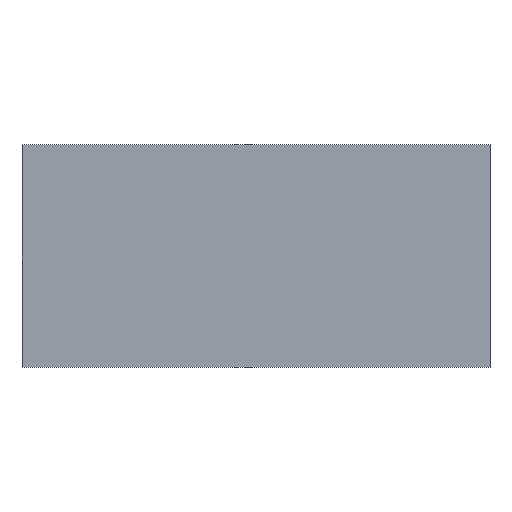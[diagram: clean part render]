
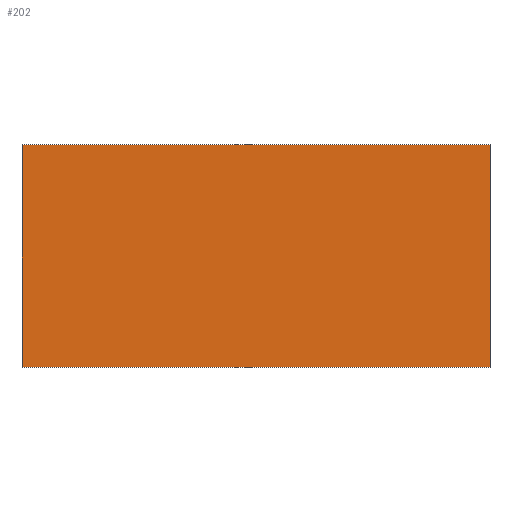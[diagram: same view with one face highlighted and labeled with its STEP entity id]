
A CAD part, top view. The second image highlights one B-rep face of the part: STEP entity #202.
In plain terms, the highlighted planar face has unit normal (0, 0, 1).
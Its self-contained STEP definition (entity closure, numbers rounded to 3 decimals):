
#9 = EDGE_CURVE ( 'NONE', #58, #63, #158, .T. ) ;
#12 = EDGE_CURVE ( 'NONE', #61, #60, #137, .T. ) ;
#13 = EDGE_CURVE ( 'NONE', #63, #61, #150, .T. ) ;
#17 = EDGE_CURVE ( 'NONE', #60, #58, #179, .T. ) ;
#18 = AXIS2_PLACEMENT_3D ( 'NONE', #39, #41, #46 ) ;
#39 = CARTESIAN_POINT ( 'NONE',  ( -451., 429., 6. ) ) ;
#41 = DIRECTION ( 'NONE',  ( 0., 0., -1. ) ) ;
#46 = DIRECTION ( 'NONE',  ( 0., 1., 0. ) ) ;
#52 = CARTESIAN_POINT ( 'NONE',  ( 451., 429., 6. ) ) ;
#58 = VERTEX_POINT ( 'NONE', #104 ) ;
#60 = VERTEX_POINT ( 'NONE', #96 ) ;
#61 = VERTEX_POINT ( 'NONE', #101 ) ;
#63 = VERTEX_POINT ( 'NONE', #52 ) ;
#69 = PLANE ( 'NONE',  #18 ) ;
#75 = DIRECTION ( 'NONE',  ( 0., 1., 0. ) ) ;
#78 = DIRECTION ( 'NONE',  ( -1., 0., 0. ) ) ;
#96 = CARTESIAN_POINT ( 'NONE',  ( -451., 0., 6. ) ) ;
#101 = CARTESIAN_POINT ( 'NONE',  ( -451., 429., 6. ) ) ;
#104 = CARTESIAN_POINT ( 'NONE',  ( 451., 0., 6. ) ) ;
#109 = DIRECTION ( 'NONE',  ( 1., 0., 0. ) ) ;
#112 = DIRECTION ( 'NONE',  ( 0., -1., 0. ) ) ;
#113 = CARTESIAN_POINT ( 'NONE',  ( -451., 0., 6. ) ) ;
#115 = CARTESIAN_POINT ( 'NONE',  ( -451., 429., 6. ) ) ;
#119 = CARTESIAN_POINT ( 'NONE',  ( -451., 0., 6. ) ) ;
#124 = CARTESIAN_POINT ( 'NONE',  ( 451., 0., 6. ) ) ;
#137 = LINE ( 'NONE', #119, #193 ) ;
#140 = ORIENTED_EDGE ( 'NONE', *, *, #13, .T. ) ;
#145 = VECTOR ( 'NONE', #109, 1000. ) ;
#150 = LINE ( 'NONE', #115, #151 ) ;
#151 = VECTOR ( 'NONE', #78, 1000. ) ;
#158 = LINE ( 'NONE', #124, #174 ) ;
#167 = ORIENTED_EDGE ( 'NONE', *, *, #12, .T. ) ;
#174 = VECTOR ( 'NONE', #75, 1000. ) ;
#175 = ORIENTED_EDGE ( 'NONE', *, *, #9, .T. ) ;
#179 = LINE ( 'NONE', #113, #145 ) ;
#181 = EDGE_LOOP ( 'NONE', ( #167, #184, #175, #140 ) ) ;
#184 = ORIENTED_EDGE ( 'NONE', *, *, #17, .T. ) ;
#193 = VECTOR ( 'NONE', #112, 1000. ) ;
#198 = FACE_OUTER_BOUND ( 'NONE', #181, .T. ) ;
#202 = ADVANCED_FACE ( 'NONE', ( #198 ), #69, .F. ) ;
